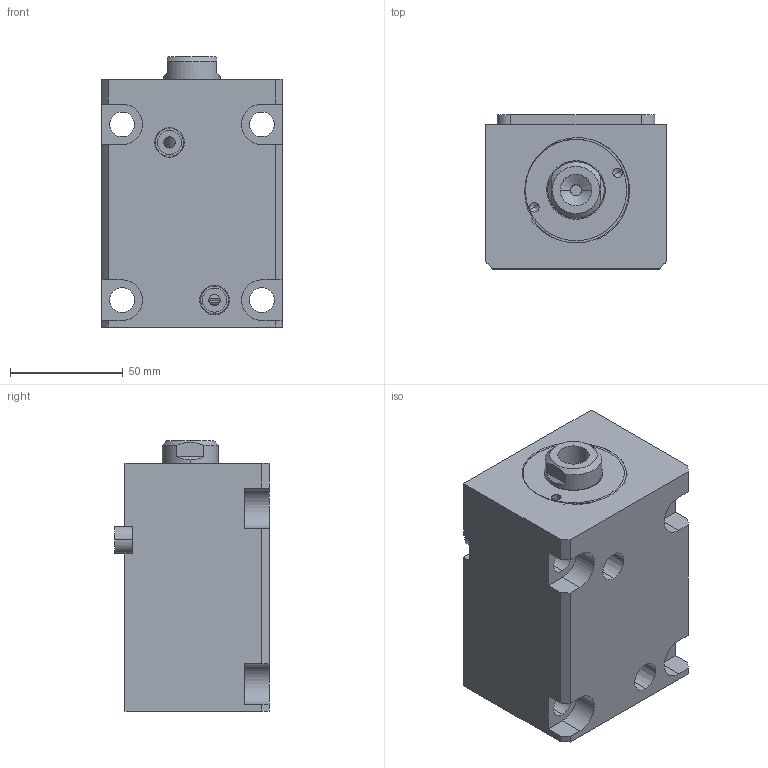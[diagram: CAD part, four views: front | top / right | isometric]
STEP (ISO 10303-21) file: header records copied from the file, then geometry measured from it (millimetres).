
FILE_DESCRIPTION (( 'STEP AP214' ), '1' );
FILE_NAME ('chtb-la40x55n_asm.STEP', '2018-05-31T01:51:47', ( 'Windows' ), ( 'Microsoft' ), 'SwSTEP 2.0', 'SolidWorks 2015', '' );
FILE_SCHEMA (( 'AUTOMOTIVE_DESIGN' ));
Length unit declared in the file: millimetre
Products named in the file (5): chtb-la40x55n_asm; CHTB-LA40PJ; CHTB-SD40QG; CHTB-SD40X55NHSG; CHTB-LA40X55NBT
Assembly tree (4 placements, depth 2):
  chtb-la40x55n_asm
    CHTB-LA40X55NBT
    CHTB-SD40X55NHSG
    CHTB-SD40QG
    CHTB-LA40PJ
Bounding box: 80 x 68.5 x 120 mm (x, y, z)
Volume: 482435.9 mm3; surface area: 92075.5 mm2
Topology: 4 solids, 4 shells, 160 faces, 430 edges, 286 vertices
Faces by surface type: cylinder 73, plane 48, bspline 14, cone 13, torus 12
Entity records: 10258 total; most frequent: CARTESIAN_POINT 6106, ORIENTED_EDGE 848, DIRECTION 787, EDGE_CURVE 424, AXIS2_PLACEMENT_3D 314, VERTEX_POINT 286, EDGE_LOOP 188, CIRCLE 161
